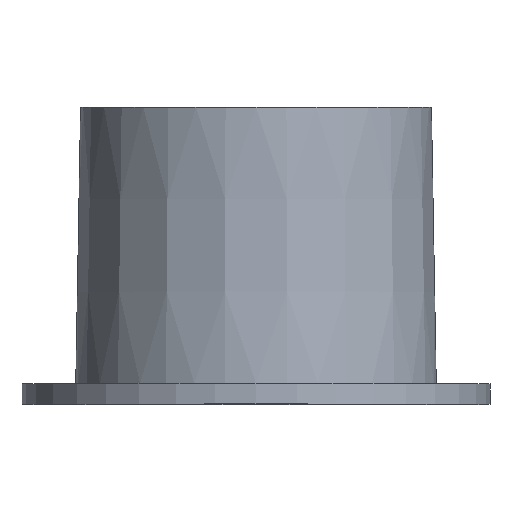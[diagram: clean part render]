
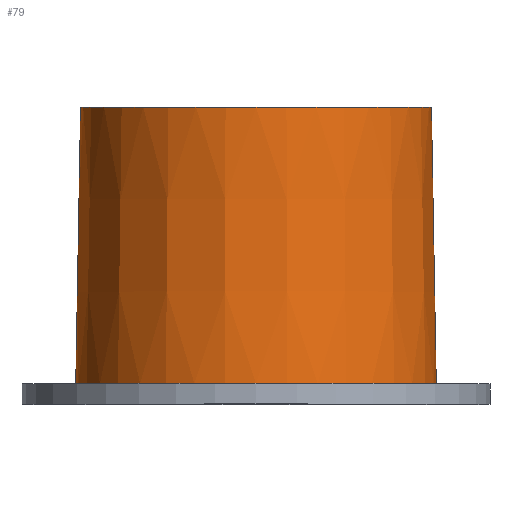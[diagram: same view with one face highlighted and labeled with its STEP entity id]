
A CAD part, top view. The second image highlights one B-rep face of the part: STEP entity #79.
In plain terms, the highlighted conical face has half-angle 1 degrees and reference radius 63.703 mm.
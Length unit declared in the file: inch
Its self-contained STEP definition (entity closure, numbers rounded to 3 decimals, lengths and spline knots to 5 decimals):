
#14=CONICAL_SURFACE($,#94,2.50797,1.);
#23=FACE_BOUND($,#40,.T.);
#29=FACE_OUTER_BOUND($,#39,.T.);
#39=EDGE_LOOP($,(#69));
#40=EDGE_LOOP($,(#70));
#47=CIRCLE($,#93,2.47396);
#48=CIRCLE($,#95,2.54198);
#53=VERTEX_POINT($,#139);
#54=VERTEX_POINT($,#142);
#59=EDGE_CURVE($,#53,#53,#47,.T.);
#60=EDGE_CURVE($,#54,#54,#48,.T.);
#69=ORIENTED_EDGE($,*,*,#60,.F.);
#70=ORIENTED_EDGE($,*,*,#59,.T.);
#79=ADVANCED_FACE($,(#29,#23),#14,.T.);
#93=AXIS2_PLACEMENT_3D($,#140,#117,#118);
#94=AXIS2_PLACEMENT_3D($,#141,#119,#120);
#95=AXIS2_PLACEMENT_3D($,#143,#121,#122);
#117=DIRECTION('center_axis',(0.,-1.,0.));
#118=DIRECTION('ref_axis',(1.,0.,0.));
#119=DIRECTION('center_axis',(0.,-1.,0.));
#120=DIRECTION('ref_axis',(1.,0.,0.));
#121=DIRECTION('center_axis',(0.,-1.,0.));
#122=DIRECTION('ref_axis',(1.,0.,0.));
#139=CARTESIAN_POINT('',(2.47396,4.187,0.));
#140=CARTESIAN_POINT('Origin',(0.,4.187,0.));
#141=CARTESIAN_POINT('Origin',(0.,2.2385,0.));
#142=CARTESIAN_POINT('',(2.54198,0.29,0.));
#143=CARTESIAN_POINT('Origin',(0.,0.29,
0.));
